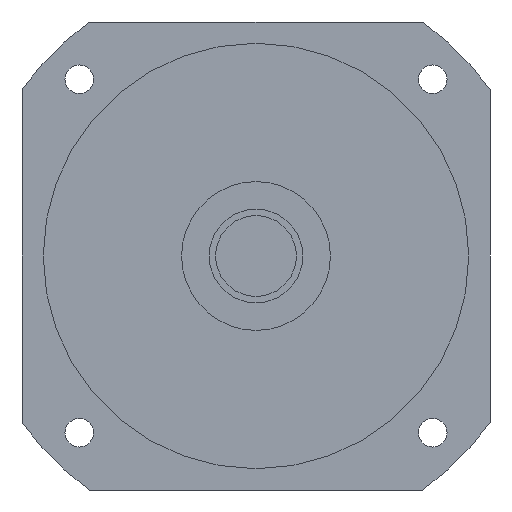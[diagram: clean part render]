
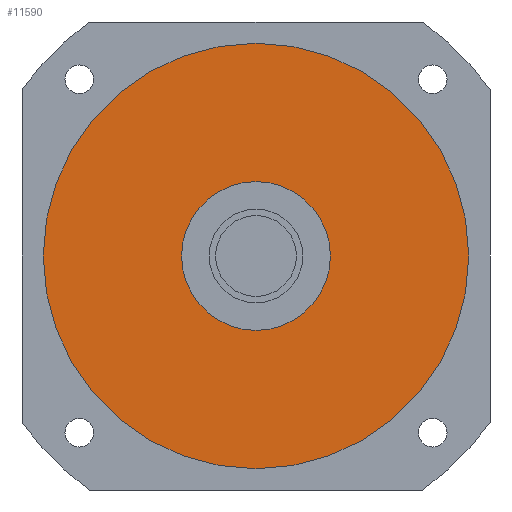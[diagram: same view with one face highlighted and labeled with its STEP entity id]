
A CAD part, left-side view. The second image highlights one B-rep face of the part: STEP entity #11590.
In plain terms, the highlighted planar face has unit normal (-1, 0, 0) as drawn and (0, 0, -1) by its records, which use the part's own axes.
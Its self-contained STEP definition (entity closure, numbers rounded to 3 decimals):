
#11030=CARTESIAN_POINT('',(-35.,0.,-79.7));
#11040=VERTEX_POINT('',#11030);
#11070=CARTESIAN_POINT('',(0.,0.,
-79.7));
#11080=DIRECTION('',(0.,0.,1.));
#11090=DIRECTION('',(0.,1.,0.));
#11100=AXIS2_PLACEMENT_3D('',#11070,#11080,#11090);
#11110=CIRCLE('',#11100,35.);
#11120=CARTESIAN_POINT('',(35.,0.,-79.7));
#11130=VERTEX_POINT('',#11120);
#11140=EDGE_CURVE('',#11040,#11130,#11110,.T.);
#11260=CARTESIAN_POINT('',(0.,0.,
-79.7));
#11270=DIRECTION('',(0.,0.,1.));
#11280=DIRECTION('',(-1.,0.,0.));
#11290=AXIS2_PLACEMENT_3D('',#11260,#11270,#11280);
#11300=PLANE('',#11290);
#11310=ORIENTED_EDGE('',*,*,#11140,.T.);
#11320=CARTESIAN_POINT('',(0.,35.,-79.7));
#11330=VERTEX_POINT('',#11320);
#11340=EDGE_CURVE('',#11330,#11040,#11110,.T.);
#11350=ORIENTED_EDGE('',*,*,#11340,.T.);
#11360=EDGE_CURVE('',#11130,#11330,#11110,.T.);
#11370=ORIENTED_EDGE('',*,*,#11360,.T.);
#11380=EDGE_LOOP('',(#11370,#11350,#11310));
#11390=FACE_BOUND('',#11380,.T.);
#11400=CARTESIAN_POINT('',(0.,0.,
-79.7));
#11410=DIRECTION('',(0.,0.,1.));
#11420=DIRECTION('',(0.,1.,0.));
#11430=AXIS2_PLACEMENT_3D('',#11400,#11410,#11420);
#11440=CIRCLE('',#11430,100.);
#11450=CARTESIAN_POINT('',(0.,100.,-79.7));
#11460=VERTEX_POINT('',#11450);
#11470=CARTESIAN_POINT('',(-100.,0.,-79.7));
#11480=VERTEX_POINT('',#11470);
#11490=EDGE_CURVE('',#11460,#11480,#11440,.T.);
#11500=ORIENTED_EDGE('',*,*,#11490,.F.);
#11510=CARTESIAN_POINT('',(100.,0.,-79.7));
#11520=VERTEX_POINT('',#11510);
#11530=EDGE_CURVE('',#11480,#11520,#11440,.T.);
#11540=ORIENTED_EDGE('',*,*,#11530,.F.);
#11550=EDGE_CURVE('',#11520,#11460,#11440,.T.);
#11560=ORIENTED_EDGE('',*,*,#11550,.F.);
#11570=EDGE_LOOP('',(#11560,#11540,#11500));
#11580=FACE_OUTER_BOUND('',#11570,.T.);
#11590=ADVANCED_FACE('',(#11390,#11580),#11300,.F.);
